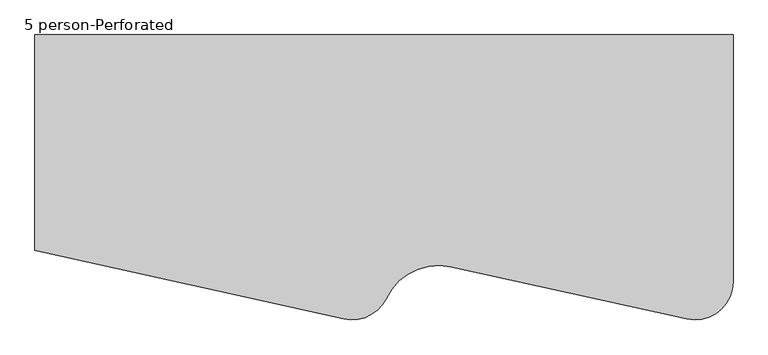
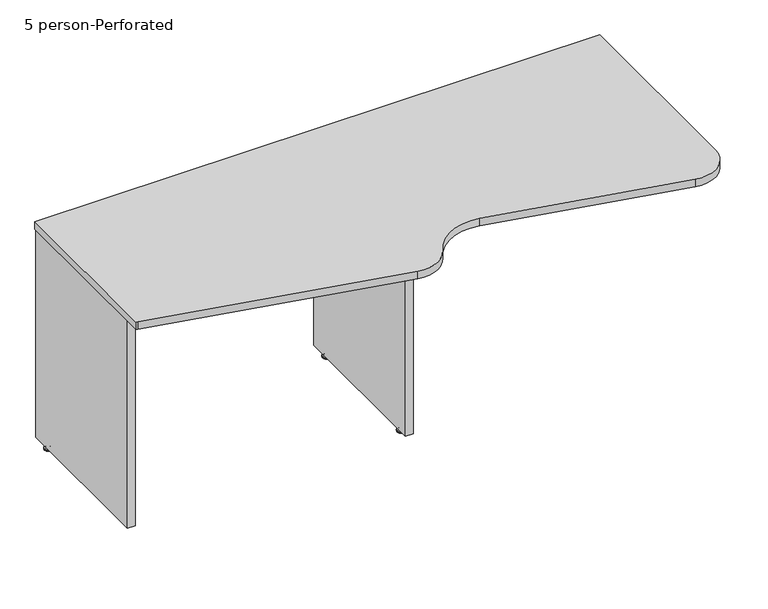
"""IFC4 building model written with IfcOpenShell, lengths in millimetres: furniture geometry, Nova Solutions - Collaboration Table - Keystone_4-5 person : 5 person-Perforated."""

import ifcopenshell
import ifcopenshell.guid

model = None  # the IFC model being written
_history = None  # IfcOwnerHistory: only IFC2X3 demands one
_inside = {}  # id of a spatial element -> (the spatial element, [elements in it])
_under = {}  # id of a project, library or spatial element -> (it, [spatial elements below it])
_declared = {}  # id of a project -> (the project, [libraries it declares])
_typed = {}  # id of a type object -> (the type object, [elements of that type])
_made_of = {}  # id of a material, layer set ... -> (it, [elements and type objects made of it])


def new_model(schema):
    """Start an empty IFC model of exactly this schema.

    Asked for "IFC4X3", IfcOpenShell would pick the latest addendum, in which some entities
    have other attributes; the version numbers below select the first issue.
    IFC2X3 requires an IfcOwnerHistory on every rooted entity: one is made here for all.
    """
    global model, _history
    if schema == "IFC4X3":
        model = ifcopenshell.file(schema_version=(4, 3, 0, 0))
    else:
        model = ifcopenshell.file(schema=schema)
    _inside.clear()
    _under.clear()
    _declared.clear()
    _typed.clear()
    _made_of.clear()
    _history = None
    if model.schema == "IFC2X3":
        org = make("IfcOrganization", Name="unknown")
        user = make(
            "IfcPersonAndOrganization",
            ThePerson=make("IfcPerson", FamilyName="unknown"),
            TheOrganization=org,
        )
        app = make(
            "IfcApplication",
            ApplicationDeveloper=org,
            Version="unknown",
            ApplicationFullName="unknown",
            ApplicationIdentifier="unknown",
        )
        _history = make(
            "IfcOwnerHistory",
            OwningUser=user,
            OwningApplication=app,
            ChangeAction="ADDED",
            CreationDate=0,
        )
    return model


def make(cls, **values):
    """One entity of the class cls with the attributes given. An attribute that is None is left unset."""
    return model.create_entity(
        cls, **{name: value for name, value in values.items() if value is not None}
    )


def rooted(cls, **values):
    """An entity with a GlobalId (a new one), such as an element, a storey or a relation."""
    return make(cls, GlobalId=ifcopenshell.guid.new(), OwnerHistory=_history, **values)


def si_unit(unit_type, name, prefix=None):
    """IfcSIUnit, for example si_unit("LENGTHUNIT", "METRE", prefix="MILLI")."""
    return make("IfcSIUnit", UnitType=unit_type, Prefix=prefix, Name=name)


def assignment(units):
    """IfcUnitAssignment: the units of a project."""
    return None if units is None else make("IfcUnitAssignment", Units=units)


def point(xyz):
    """IfcCartesianPoint."""
    return None if xyz is None else make("IfcCartesianPoint", Coordinates=xyz)


def direction(xyz):
    """IfcDirection."""
    return None if xyz is None else make("IfcDirection", DirectionRatios=xyz)


def frame(location, z_axis=None, x_axis=None):
    """IfcAxis2Placement3D, a coordinate frame: its origin and axes. An axis left out is left unset."""
    return make(
        "IfcAxis2Placement3D",
        Location=point(location),
        Axis=direction(z_axis),
        RefDirection=direction(x_axis),
    )


def frame_2d(location, x_axis=None):
    """IfcAxis2Placement2D, a coordinate frame in the plane: its origin and x axis."""
    return make(
        "IfcAxis2Placement2D", Location=point(location), RefDirection=direction(x_axis)
    )


def origin():
    """The frame at (0, 0, 0) with its axes left unset."""
    return frame((0.0, 0.0, 0.0))


def place(relative_to, where):
    """IfcLocalPlacement: puts the frame where relative to a parent placement (None: the world)."""
    return make(
        "IfcLocalPlacement", PlacementRelTo=relative_to, RelativePlacement=where
    )


def context(
    kind, dimensions, precision=None, world=None, true_north=None, identifier=None
):
    """IfcGeometricRepresentationContext, for example the 3D "Model" context."""
    return make(
        "IfcGeometricRepresentationContext",
        ContextIdentifier=identifier,
        ContextType=kind,
        CoordinateSpaceDimension=dimensions,
        Precision=precision,
        WorldCoordinateSystem=world,
        TrueNorth=true_north,
    )


def project(units=None, contexts=None):
    """IfcProject with its units and contexts."""
    return rooted(
        "IfcProject",
        Name="project",
        RepresentationContexts=contexts,
        UnitsInContext=assignment(units),
    )


def spatial(cls, under=None, at=None, **own):
    """A site, building, storey or space (cls), placed at a placement, below another one or the project."""
    s = rooted(cls, ObjectPlacement=at, **own)
    if under is not None:
        _under.setdefault(under.id(), (under, []))[1].append(s)
    return s


def polyline(points):
    """IfcPolyline through the points."""
    return make("IfcPolyline", Points=[point(p) for p in points])


def circle_curve(where, radius):
    """IfcCircle in the frame where."""
    return make("IfcCircle", Position=where, Radius=radius)


def ellipse_curve(where, semi_axis1, semi_axis2):
    """IfcEllipse in the frame where."""
    return make(
        "IfcEllipse", Position=where, SemiAxis1=semi_axis1, SemiAxis2=semi_axis2
    )


def trimmed(basis, trim1, trim2, sense, master):
    """IfcTrimmedCurve: the piece of a basis curve between two trims."""
    return make(
        "IfcTrimmedCurve",
        BasisCurve=basis,
        Trim1=trim1,
        Trim2=trim2,
        SenseAgreement=sense,
        MasterRepresentation=master,
    )


def segment(curve, same_sense, transition):
    """IfcCompositeCurveSegment."""
    return make(
        "IfcCompositeCurveSegment",
        Transition=transition,
        SameSense=same_sense,
        ParentCurve=curve,
    )


def composite_curve(segments, self_intersect=None):
    """IfcCompositeCurve: segments joined end to end."""
    return make("IfcCompositeCurve", Segments=segments, SelfIntersect=self_intersect)


def outline(outer, holes=None, kind="AREA"):
    """IfcArbitraryClosedProfileDef: a profile drawn as a closed curve; with holes, ...WithVoids."""
    if holes is None:
        return make("IfcArbitraryClosedProfileDef", ProfileType=kind, OuterCurve=outer)
    return make(
        "IfcArbitraryProfileDefWithVoids",
        ProfileType=kind,
        OuterCurve=outer,
        InnerCurves=holes,
    )


def extrude(swept, where, along, depth):
    """IfcExtrudedAreaSolid: the profile swept, set in the frame where, extruded along a direction by depth."""
    return make(
        "IfcExtrudedAreaSolid",
        SweptArea=swept,
        Position=where,
        ExtrudedDirection=direction(along),
        Depth=depth,
    )


def shape(context_of_items, identifier, shape_type, items):
    """IfcShapeRepresentation: the items that make up one representation, for example the "Body"."""
    return make(
        "IfcShapeRepresentation",
        ContextOfItems=context_of_items,
        RepresentationIdentifier=identifier,
        RepresentationType=shape_type,
        Items=items,
    )


def source(mapping_origin, context_of_items, identifier, shape_type, items):
    """IfcRepresentationMap: a shape defined once, which mapped items show again and again."""
    return make(
        "IfcRepresentationMap",
        MappingOrigin=mapping_origin,
        MappedRepresentation=shape(context_of_items, identifier, shape_type, items),
    )


def transform(
    local_origin,
    x_axis=None,
    y_axis=None,
    z_axis=None,
    scale=None,
    scale2=None,
    scale3=None,
    uniform=True,
):
    """IfcCartesianTransformationOperator3D, or its non-uniform kind. x_axis, y_axis, z_axis: its Axis1, 2, 3."""
    if uniform:
        return make(
            "IfcCartesianTransformationOperator3D",
            Axis1=direction(x_axis),
            Axis2=direction(y_axis),
            LocalOrigin=point(local_origin),
            Scale=scale,
            Axis3=direction(z_axis),
        )
    return make(
        "IfcCartesianTransformationOperator3DnonUniform",
        Axis1=direction(x_axis),
        Axis2=direction(y_axis),
        LocalOrigin=point(local_origin),
        Scale=scale,
        Axis3=direction(z_axis),
        Scale2=scale2,
        Scale3=scale3,
    )


def mapped(mapping_source, mapping_target):
    """IfcMappedItem: shows the shape of a source again, moved by a transform."""
    return make(
        "IfcMappedItem", MappingSource=mapping_source, MappingTarget=mapping_target
    )


def made_of(thing, what):
    """Note that an element or type object is made of a material, layer set ...; save() writes the relation."""
    if what is not None:
        _made_of.setdefault(what.id(), (what, []))[1].append(thing)
    return thing


def element(
    cls,
    number,
    at=None,
    inside=None,
    cuts=None,
    type_object=None,
    material=None,
    context=None,
    identifier="Body",
    shape_type=None,
    held_by="IfcProductDefinitionShape",
    body=None,
    shapes=None,
    **own,
):
    """One element of the class cls, such as IfcWall. Its Tag is "e" and its number.

    at: its placement. inside: the storey or other place that contains it. cuts: it is an
    opening in that element (IfcRelVoidsElement). A single representation is given by context,
    identifier, shape_type and body (its items); several are given by shapes. held_by: the class
    of the entity that holds the representations. save() writes the other relations.
    """
    e = rooted(cls, Tag="e%d" % number, ObjectPlacement=at, **own)
    if body is not None:
        shapes = [shape(context, identifier, shape_type, body)]
    if shapes is not None:
        e.Representation = make(held_by, Representations=shapes)
    if inside is not None:
        _inside.setdefault(inside.id(), (inside, []))[1].append(e)
    if cuts is not None:
        rooted(
            "IfcRelVoidsElement", RelatingBuildingElement=cuts, RelatedOpeningElement=e
        )
    if type_object is not None:
        _typed.setdefault(type_object.id(), (type_object, []))[1].append(e)
    return made_of(e, material)


def aggregate(whole, parts):
    """IfcRelAggregates: a whole, such as a stair, and the parts it consists of."""
    return rooted("IfcRelAggregates", RelatingObject=whole, RelatedObjects=parts)


def save(model, path):
    """Write the relations noted so far, then the file.

    IfcRelAggregates (storeys below a building ...), IfcRelContainedInSpatialStructure (elements
    in a storey), IfcRelDefinesByType, IfcRelAssociatesMaterial and IfcRelDeclares: one each for
    every whole, place, type object, material and project.
    """
    for whole, parts in _under.values():
        aggregate(whole, parts)
    for where, things in _inside.values():
        rooted(
            "IfcRelContainedInSpatialStructure",
            RelatedElements=things,
            RelatingStructure=where,
        )
    for kind, things in _typed.values():
        rooted("IfcRelDefinesByType", RelatedObjects=things, RelatingType=kind)
    for what, things in _made_of.values():
        rooted("IfcRelAssociatesMaterial", RelatedObjects=things, RelatingMaterial=what)
    for by, libraries in _declared.values():
        rooted("IfcRelDeclares", RelatingContext=by, RelatedDefinitions=libraries)
    model.write(path)


def plane_surface(at):
    """IfcPlane: the flat surface through the origin of the frame at, square to its z axis."""
    return make("IfcPlane", Position=at)


def cylinder_surface(at, radius):
    """IfcCylindricalSurface: all points at the distance radius from the z axis of the frame at."""
    return make("IfcCylindricalSurface", Position=at, Radius=radius)


def revolved_surface(curve, axis_point, axis_direction):
    """IfcSurfaceOfRevolution: the curve turned about the line through axis_point along axis_direction."""
    return make(
        "IfcSurfaceOfRevolution",
        SweptCurve=make("IfcArbitraryOpenProfileDef", ProfileType="CURVE", Curve=curve),
        AxisPosition=make("IfcAxis1Placement", Location=point(axis_point), Axis=direction(axis_direction)),
    )


def advanced_brep(points, edges, surfaces, faces):
    """IfcAdvancedBrep: a solid bounded by faces that lie on surfaces and meet in shared edges.

    An edge is (start, end): straight between two places in points (the first is 0);
    or (start, end, curve); or (start, end, curve, False) where it runs against its curve.
    A face is (place in surfaces, loops), or (place, loops, False) where it looks against
    its surface's normal. A loop lists edges by number (the first is 1), with a minus sign
    where the edge is run from its end to its start. The first loop is the outer one.
    """
    corners = [point(p) for p in points]
    vertices = [make("IfcVertexPoint", VertexGeometry=c) for c in corners]
    made = []
    for start, end, *more in edges:
        made.append(
            make(
                "IfcEdgeCurve",
                EdgeStart=vertices[start],
                EdgeEnd=vertices[end],
                EdgeGeometry=more[0] if more else make("IfcPolyline", Points=[corners[start], corners[end]]),
                SameSense=more[1] if len(more) > 1 else True,
            )
        )
    hull = []
    for where, loops, *sense in faces:
        bounds = []
        for j, loop in enumerate(loops):
            ring = [make("IfcOrientedEdge", EdgeElement=made[abs(k) - 1], Orientation=k > 0) for k in loop]
            bounds.append(
                make(
                    "IfcFaceOuterBound" if j == 0 else "IfcFaceBound",
                    Bound=make("IfcEdgeLoop", EdgeList=ring),
                    Orientation=True,
                )
            )
        hull.append(make("IfcAdvancedFace", Bounds=bounds, FaceSurface=surfaces[where], SameSense=sense[0] if sense else True))
    return make("IfcAdvancedBrep", Outer=make("IfcClosedShell", CfsFaces=hull))


def furniture_5_person_perforated_9bd49d1d(model_context):
    return source(origin(), model_context, "Body", "SolidModel", [
        advanced_brep(
        [(-922.3776506, -50.3590625, 11.1125), (-915.7, -50.3590625, 11.1125), (-909.0223494, -50.3590625, 11.1125), (-922.3776506, -50.3590625, 9.525), (-909.0223494, -50.3590625, 9.525), (-927.5855135, -50.3590625, 4.7748687), (-903.8144865, -50.3590625, 4.7748687), (-928.4466506, -50.3590625, 3.989419), (-902.9533494, -50.3590625, 3.989419), (-928.4466506, -50.3590625, 3.175), (-902.9533494, -50.3590625, 3.175), (-927.5959119, -50.3590625, 0.0), (-903.8040881, -50.3590625, 0.0), (-915.7, -50.3590625, 0.0)],
        [
            (0, 1),
            (1, 2),
            (2, 0, circle_curve(frame((-915.7, -50.3590625, 11.1125), z_axis=(0.0, 0.0, 1.0), x_axis=(1.0, 0.0, 0.0)), 6.6776506)),
            (0, 2, circle_curve(frame((-915.7, -50.3590625, 11.1125), z_axis=(0.0, 0.0, 1.0), x_axis=(1.0, 0.0, 0.0)), 6.6776506)),
            (3, 0),
            (2, 4),
            (4, 3, circle_curve(frame((-915.7, -50.3590625, 9.525), z_axis=(0.0, 0.0, 1.0), x_axis=(1.0, 0.0, 0.0)), 6.6776506)),
            (3, 4, circle_curve(frame((-915.7, -50.3590625, 9.525), z_axis=(0.0, 0.0, 1.0), x_axis=(1.0, 0.0, 0.0)), 6.6776506)),
            (5, 3, circle_curve(frame((-928.6320627, -50.3590625, 11.1521822), z_axis=(0.0, -1.0, 0.0), x_axis=(1.0, 0.0, 0.0)), 6.462615)),
            (4, 6, circle_curve(frame((-902.7679373, -50.3590625, 11.1521822), z_axis=(0.0, -1.0, 0.0), x_axis=(-1.0, 0.0, 0.0)), 6.462615)),
            (6, 5, circle_curve(frame((-915.7, -50.3590625, 4.7748687), z_axis=(0.0, 0.0, 1.0), x_axis=(1.0, 0.0, 0.0)), 11.8855135)),
            (5, 6, circle_curve(frame((-915.7, -50.3590625, 4.7748687), z_axis=(0.0, 0.0, 1.0), x_axis=(1.0, 0.0, 0.0)), 11.8855135)),
            (7, 5, circle_curve(frame((-927.4124632, -50.3590625, 3.7203591), z_axis=(0.0, 1.0, 0.0), x_axis=(1.0, 0.0, 0.0)), 1.0686145)),
            (6, 8, circle_curve(frame((-903.9875368, -50.3590625, 3.7203591), z_axis=(0.0, 1.0, 0.0), x_axis=(-1.0, 0.0, 0.0)), 1.0686145)),
            (8, 7, circle_curve(frame((-915.7, -50.3590625, 3.989419), z_axis=(0.0, 0.0, 1.0), x_axis=(1.0, 0.0, 0.0)), 12.7466506)),
            (7, 8, circle_curve(frame((-915.7, -50.3590625, 3.989419), z_axis=(0.0, 0.0, 1.0), x_axis=(1.0, 0.0, 0.0)), 12.7466506)),
            (9, 7),
            (8, 10),
            (10, 9, circle_curve(frame((-915.7, -50.3590625, 3.175), z_axis=(0.0, 0.0, 1.0), x_axis=(1.0, 0.0, 0.0)), 12.7466506)),
            (9, 10, circle_curve(frame((-915.7, -50.3590625, 3.175), z_axis=(0.0, 0.0, 1.0), x_axis=(1.0, 0.0, 0.0)), 12.7466506)),
            (11, 9),
            (10, 12),
            (12, 11, circle_curve(frame((-915.7, -50.3590625, 0.0), z_axis=(0.0, 0.0, 1.0), x_axis=(1.0, 0.0, 0.0)), 11.8959119)),
            (11, 12, circle_curve(frame((-915.7, -50.3590625, 0.0), z_axis=(0.0, 0.0, 1.0), x_axis=(1.0, 0.0, 0.0)), 11.8959119)),
            (13, 11),
            (12, 13),
        ],
        [
            plane_surface(frame((-915.7, -50.3590625, 11.1125), z_axis=(0.0, 0.0, 1.0), x_axis=(1.0, 0.0, 0.0))),
            cylinder_surface(frame((-915.7, -50.3590625, 43.2095994), z_axis=(0.0, 0.0, -1.0), x_axis=(1.0, 0.0, 0.0)), 6.6776506),
            revolved_surface(trimmed(ellipse_curve(frame((-902.7679373, -50.3590625, 11.1521822), z_axis=(0.0, -1.0, 0.0), x_axis=(-1.0, 0.0, 0.0)), 6.462615, 6.462615), [point((-909.0223494, -50.3590625, 9.525))], [point((-903.8144865, -50.3590625, 4.7748687))], True, "CARTESIAN"), (-915.7, -50.3590625, 43.2095994), (0.0, 0.0, -1.0)),
            revolved_surface(trimmed(ellipse_curve(frame((-903.9875368, -50.3590625, 3.7203591), z_axis=(0.0, 1.0, 0.0), x_axis=(-1.0, 0.0, 0.0)), 1.0686145, 1.0686145), [point((-903.8144865, -50.3590625, 4.7748687))], [point((-902.9533494, -50.3590625, 3.989419))], True, "CARTESIAN"), (-915.7, -50.3590625, 43.2095994), (0.0, 0.0, -1.0)),
            cylinder_surface(frame((-915.7, -50.3590625, 43.2095994), z_axis=(0.0, 0.0, -1.0), x_axis=(1.0, 0.0, 0.0)), 12.7466506),
            revolved_surface(polyline([(-902.9533494, -50.3590625, 3.175), (-903.8040881, -50.3590625, 0.0)]), (-915.7, -50.3590625, 43.2095994), (0.0, 0.0, -1.0)),
            plane_surface(frame((-915.7, -50.3590625, 0.0), z_axis=(0.0, 0.0, -1.0), x_axis=(1.0, 0.0, 0.0))),
        ],
        [
            (0, [[1, 2, 3]]),
            (0, [[-2, -1, 4]]),
            (1, [[5, -3, 6, 7]]),
            (1, [[-6, -4, -5, 8]]),
            (2, [[9, -7, 10, 11]]),
            (2, [[-10, -8, -9, 12]]),
            (3, [[13, -11, 14, 15]]),
            (3, [[-14, -12, -13, 16]]),
            (4, [[17, -15, 18, 19]]),
            (4, [[-18, -16, -17, 20]]),
            (5, [[21, -19, 22, 23]]),
            (5, [[-22, -20, -21, 24]]),
            (6, [[25, -23, 26]]),
            (6, [[-26, -24, -25]]),
        ],
    ),
        extrude(outline(polyline([(-928.55, -1.345), (-902.85, -1.345), (-902.85, -523.345), (-928.55, -523.345), (-928.55, -1.345)])), frame((0.0, 0.0, 15.6), z_axis=(0.0, 0.0, 1.0), x_axis=(1.0, 0.0, 0.0)), (0.0, 0.0, 1.0), 720.7),
        advanced_brep(
        [(3.8776506, -474.3309375, 11.1125), (-9.4776506, -474.3309375, 11.1125), (-2.8, -474.3309375, 11.1125), (3.8776506, -474.3309375, 9.525), (-9.4776506, -474.3309375, 9.525), (9.0855135, -474.3309375, 4.7748687), (-14.6855135, -474.3309375, 4.7748687), (9.9466506, -474.3309375, 3.989419), (-15.5466506, -474.3309375, 3.989419), (9.9466506, -474.3309375, 3.175), (-15.5466506, -474.3309375, 3.175), (9.0959119, -474.3309375, 0.0), (-14.6959119, -474.3309375, 0.0), (-2.8, -474.3309375, 0.0)],
        [
            (0, 1, circle_curve(frame((-2.8, -474.3309375, 11.1125), z_axis=(0.0, 0.0, 1.0), x_axis=(-1.0, 0.0, 0.0)), 6.6776506)),
            (1, 2),
            (2, 0),
            (1, 0, circle_curve(frame((-2.8, -474.3309375, 11.1125), z_axis=(0.0, 0.0, 1.0), x_axis=(-1.0, 0.0, 0.0)), 6.6776506)),
            (3, 4, circle_curve(frame((-2.8, -474.3309375, 9.525), z_axis=(0.0, 0.0, 1.0), x_axis=(-1.0, 0.0, 0.0)), 6.6776506)),
            (4, 1),
            (0, 3),
            (4, 3, circle_curve(frame((-2.8, -474.3309375, 9.525), z_axis=(0.0, 0.0, 1.0), x_axis=(-1.0, 0.0, 0.0)), 6.6776506)),
            (5, 6, circle_curve(frame((-2.8, -474.3309375, 4.7748687), z_axis=(0.0, 0.0, 1.0), x_axis=(-1.0, 0.0, 0.0)), 11.8855135)),
            (6, 4, circle_curve(frame((-15.7320627, -474.3309375, 11.1521822), z_axis=(0.0, -1.0, 0.0), x_axis=(1.0, 0.0, 0.0)), 6.462615)),
            (3, 5, circle_curve(frame((10.1320627, -474.3309375, 11.1521822), z_axis=(0.0, -1.0, 0.0), x_axis=(-1.0, 0.0, 0.0)), 6.462615)),
            (6, 5, circle_curve(frame((-2.8, -474.3309375, 4.7748687), z_axis=(0.0, 0.0, 1.0), x_axis=(-1.0, 0.0, 0.0)), 11.8855135)),
            (7, 8, circle_curve(frame((-2.8, -474.3309375, 3.989419), z_axis=(0.0, 0.0, 1.0), x_axis=(-1.0, 0.0, 0.0)), 12.7466506)),
            (8, 6, circle_curve(frame((-14.5124632, -474.3309375, 3.7203591), z_axis=(0.0, 1.0, 0.0), x_axis=(1.0, 0.0, 0.0)), 1.0686145)),
            (5, 7, circle_curve(frame((8.9124632, -474.3309375, 3.7203591), z_axis=(0.0, 1.0, 0.0), x_axis=(-1.0, 0.0, 0.0)), 1.0686145)),
            (8, 7, circle_curve(frame((-2.8, -474.3309375, 3.989419), z_axis=(0.0, 0.0, 1.0), x_axis=(-1.0, 0.0, 0.0)), 12.7466506)),
            (9, 10, circle_curve(frame((-2.8, -474.3309375, 3.175), z_axis=(0.0, 0.0, 1.0), x_axis=(-1.0, 0.0, 0.0)), 12.7466506)),
            (10, 8),
            (7, 9),
            (10, 9, circle_curve(frame((-2.8, -474.3309375, 3.175), z_axis=(0.0, 0.0, 1.0), x_axis=(-1.0, 0.0, 0.0)), 12.7466506)),
            (11, 12, circle_curve(frame((-2.8, -474.3309375, 0.0), z_axis=(0.0, 0.0, 1.0), x_axis=(-1.0, 0.0, 0.0)), 11.8959119)),
            (12, 10),
            (9, 11),
            (12, 11, circle_curve(frame((-2.8, -474.3309375, 0.0), z_axis=(0.0, 0.0, 1.0), x_axis=(-1.0, 0.0, 0.0)), 11.8959119)),
            (13, 12),
            (11, 13),
        ],
        [
            plane_surface(frame((-2.8, -474.3309375, 11.1125), z_axis=(0.0, 0.0, 1.0), x_axis=(-1.0, 0.0, 0.0))),
            cylinder_surface(frame((-2.8, -474.3309375, 43.2095994), z_axis=(0.0, 0.0, -1.0), x_axis=(-1.0, 0.0, 0.0)), 6.6776506),
            revolved_surface(trimmed(ellipse_curve(frame((-15.7320627, -474.3309375, 11.1521822), z_axis=(0.0, 1.0, 0.0), x_axis=(1.0, 0.0, 0.0)), 6.462615, 6.462615), [point((-9.4776506, -474.3309375, 9.525))], [point((-14.6855135, -474.3309375, 4.7748687))], True, "CARTESIAN"), (-2.8, -474.3309375, 43.2095994), (0.0, 0.0, -1.0)),
            revolved_surface(trimmed(ellipse_curve(frame((-14.5124632, -474.3309375, 3.7203591), z_axis=(0.0, -1.0, 0.0), x_axis=(1.0, 0.0, 0.0)), 1.0686145, 1.0686145), [point((-14.6855135, -474.3309375, 4.7748687))], [point((-15.5466506, -474.3309375, 3.989419))], True, "CARTESIAN"), (-2.8, -474.3309375, 43.2095994), (0.0, 0.0, -1.0)),
            cylinder_surface(frame((-2.8, -474.3309375, 43.2095994), z_axis=(0.0, 0.0, -1.0), x_axis=(-1.0, 0.0, 0.0)), 12.7466506),
            revolved_surface(polyline([(-15.5466506, -474.3309375, 3.175), (-14.6959119, -474.3309375, 0.0)]), (-2.8, -474.3309375, 43.2095994), (0.0, 0.0, -1.0)),
            plane_surface(frame((-2.8, -474.3309375, 0.0), z_axis=(0.0, 0.0, -1.0), x_axis=(-1.0, 0.0, 0.0))),
        ],
        [
            (0, [[1, 2, 3]]),
            (0, [[4, -3, -2]]),
            (1, [[5, 6, -1, 7]]),
            (1, [[8, -7, -4, -6]]),
            (2, [[9, 10, -5, 11]]),
            (2, [[12, -11, -8, -10]]),
            (3, [[13, 14, -9, 15]]),
            (3, [[16, -15, -12, -14]]),
            (4, [[17, 18, -13, 19]]),
            (4, [[20, -19, -16, -18]]),
            (5, [[21, 22, -17, 23]]),
            (5, [[24, -23, -20, -22]]),
            (6, [[25, -21, 26]]),
            (6, [[-26, -24, -25]]),
        ],
    ),
        advanced_brep(
        [(3.8776506, -50.3590625, 11.1125), (-9.4776506, -50.3590625, 11.1125), (-2.8, -50.3590625, 11.1125), (3.8776506, -50.3590625, 9.525), (-9.4776506, -50.3590625, 9.525), (9.0855135, -50.3590625, 4.7748687), (-14.6855135, -50.3590625, 4.7748687), (9.9466506, -50.3590625, 3.989419), (-15.5466506, -50.3590625, 3.989419), (9.9466506, -50.3590625, 3.175), (-15.5466506, -50.3590625, 3.175), (9.0959119, -50.3590625, 0.0), (-14.6959119, -50.3590625, 0.0), (-2.8, -50.3590625, 0.0)],
        [
            (0, 1, circle_curve(frame((-2.8, -50.3590625, 11.1125), z_axis=(0.0, 0.0, 1.0), x_axis=(-1.0, 0.0, 0.0)), 6.6776506)),
            (1, 2),
            (2, 0),
            (1, 0, circle_curve(frame((-2.8, -50.3590625, 11.1125), z_axis=(0.0, 0.0, 1.0), x_axis=(-1.0, 0.0, 0.0)), 6.6776506)),
            (3, 4, circle_curve(frame((-2.8, -50.3590625, 9.525), z_axis=(0.0, 0.0, 1.0), x_axis=(-1.0, 0.0, 0.0)), 6.6776506)),
            (4, 1),
            (0, 3),
            (4, 3, circle_curve(frame((-2.8, -50.3590625, 9.525), z_axis=(0.0, 0.0, 1.0), x_axis=(-1.0, 0.0, 0.0)), 6.6776506)),
            (5, 6, circle_curve(frame((-2.8, -50.3590625, 4.7748687), z_axis=(0.0, 0.0, 1.0), x_axis=(-1.0, 0.0, 0.0)), 11.8855135)),
            (6, 4, circle_curve(frame((-15.7320627, -50.3590625, 11.1521822), z_axis=(0.0, -1.0, 0.0), x_axis=(1.0, 0.0, 0.0)), 6.462615)),
            (3, 5, circle_curve(frame((10.1320627, -50.3590625, 11.1521822), z_axis=(0.0, -1.0, 0.0), x_axis=(-1.0, 0.0, 0.0)), 6.462615)),
            (6, 5, circle_curve(frame((-2.8, -50.3590625, 4.7748687), z_axis=(0.0, 0.0, 1.0), x_axis=(-1.0, 0.0, 0.0)), 11.8855135)),
            (7, 8, circle_curve(frame((-2.8, -50.3590625, 3.989419), z_axis=(0.0, 0.0, 1.0), x_axis=(-1.0, 0.0, 0.0)), 12.7466506)),
            (8, 6, circle_curve(frame((-14.5124632, -50.3590625, 3.7203591), z_axis=(0.0, 1.0, 0.0), x_axis=(1.0, 0.0, 0.0)), 1.0686145)),
            (5, 7, circle_curve(frame((8.9124632, -50.3590625, 3.7203591), z_axis=(0.0, 1.0, 0.0), x_axis=(-1.0, 0.0, 0.0)), 1.0686145)),
            (8, 7, circle_curve(frame((-2.8, -50.3590625, 3.989419), z_axis=(0.0, 0.0, 1.0), x_axis=(-1.0, 0.0, 0.0)), 12.7466506)),
            (9, 10, circle_curve(frame((-2.8, -50.3590625, 3.175), z_axis=(0.0, 0.0, 1.0), x_axis=(-1.0, 0.0, 0.0)), 12.7466506)),
            (10, 8),
            (7, 9),
            (10, 9, circle_curve(frame((-2.8, -50.3590625, 3.175), z_axis=(0.0, 0.0, 1.0), x_axis=(-1.0, 0.0, 0.0)), 12.7466506)),
            (11, 12, circle_curve(frame((-2.8, -50.3590625, 0.0), z_axis=(0.0, 0.0, 1.0), x_axis=(-1.0, 0.0, 0.0)), 11.8959119)),
            (12, 10),
            (9, 11),
            (12, 11, circle_curve(frame((-2.8, -50.3590625, 0.0), z_axis=(0.0, 0.0, 1.0), x_axis=(-1.0, 0.0, 0.0)), 11.8959119)),
            (13, 12),
            (11, 13),
        ],
        [
            plane_surface(frame((-2.8, -50.3590625, 11.1125), z_axis=(0.0, 0.0, 1.0), x_axis=(-1.0, 0.0, 0.0))),
            cylinder_surface(frame((-2.8, -50.3590625, 43.2095994), z_axis=(0.0, 0.0, -1.0), x_axis=(-1.0, 0.0, 0.0)), 6.6776506),
            revolved_surface(trimmed(ellipse_curve(frame((-15.7320627, -50.3590625, 11.1521822), z_axis=(0.0, 1.0, 0.0), x_axis=(1.0, 0.0, 0.0)), 6.462615, 6.462615), [point((-9.4776506, -50.3590625, 9.525))], [point((-14.6855135, -50.3590625, 4.7748687))], True, "CARTESIAN"), (-2.8, -50.3590625, 43.2095994), (0.0, 0.0, -1.0)),
            revolved_surface(trimmed(ellipse_curve(frame((-14.5124632, -50.3590625, 3.7203591), z_axis=(0.0, -1.0, 0.0), x_axis=(1.0, 0.0, 0.0)), 1.0686145, 1.0686145), [point((-14.6855135, -50.3590625, 4.7748687))], [point((-15.5466506, -50.3590625, 3.989419))], True, "CARTESIAN"), (-2.8, -50.3590625, 43.2095994), (0.0, 0.0, -1.0)),
            cylinder_surface(frame((-2.8, -50.3590625, 43.2095994), z_axis=(0.0, 0.0, -1.0), x_axis=(-1.0, 0.0, 0.0)), 12.7466506),
            revolved_surface(polyline([(-15.5466506, -50.3590625, 3.175), (-14.6959119, -50.3590625, 0.0)]), (-2.8, -50.3590625, 43.2095994), (0.0, 0.0, -1.0)),
            plane_surface(frame((-2.8, -50.3590625, 0.0), z_axis=(0.0, 0.0, -1.0), x_axis=(-1.0, 0.0, 0.0))),
        ],
        [
            (0, [[1, 2, 3]]),
            (0, [[4, -3, -2]]),
            (1, [[5, 6, -1, 7]]),
            (1, [[8, -7, -4, -6]]),
            (2, [[9, 10, -5, 11]]),
            (2, [[12, -11, -8, -10]]),
            (3, [[13, 14, -9, 15]]),
            (3, [[16, -15, -12, -14]]),
            (4, [[17, 18, -13, 19]]),
            (4, [[20, -19, -16, -18]]),
            (5, [[21, 22, -17, 23]]),
            (5, [[24, -23, -20, -22]]),
            (6, [[25, -21, 26]]),
            (6, [[-26, -24, -25]]),
        ],
    ),
        extrude(outline(polyline([(10.05, -1.345), (10.05, -523.345), (-15.65, -523.345), (-15.65, -1.345), (10.05, -1.345)])), frame((0.0, 0.0, 15.6), z_axis=(0.0, 0.0, 1.0), x_axis=(1.0, 0.0, 0.0)), (0.0, 0.0, 1.0), 720.7),
        extrude(outline(composite_curve([segment(polyline([(924.25, 0.0), (924.25, -656.5229386)]), True, "CONTINUOUS"), segment(trimmed(circle_curve(frame_2d((822.75, -656.5229386)), 101.5), [point((924.25, -656.5229386))], [point((800.7813792, -755.6169834))], False, "CARTESIAN"), True, "CONTINUOUS"), segment(polyline([(800.7813792, -755.6169834), (174.2784283, -616.724623)]), True, "CONTINUOUS"), segment(trimmed(circle_curve(frame_2d((141.2930311, -765.5121345)), 152.4), [point((174.2784283, -616.724623))], [point((2.6149334, -702.3128843))], True, "CARTESIAN"), True, "CONTINUOUS"), segment(trimmed(circle_curve(frame_2d((-87.9867994, -656.5572725)), 101.5), [point((2.6149334, -702.3128843))], [point((-110.0827884, -755.6229945))], False, "CARTESIAN"), True, "CONTINUOUS"), segment(polyline([(-110.0827884, -755.6229945), (-923.5758236, -574.1784667)]), True, "CONTINUOUS"), segment(trimmed(circle_curve(frame_2d((-904.6251452, -474.4632633)), 101.5), [point((-923.5758236, -574.1784667))], [point((-929.988, -572.7433508))], False, "CARTESIAN"), True, "CONTINUOUS"), segment(polyline([(-929.988, -572.7433508), (-929.988, 0.0), (924.25, 0.0)]), True, "CONTINUOUS")], self_intersect=False)), frame((0.0, 0.0, 736.3), z_axis=(0.0, 0.0, 1.0), x_axis=(1.0, 0.0, 0.0)), (0.0, 0.0, 1.0), 25.7),
    ])


if __name__ == "__main__":
    model = new_model("IFC4")
    model_context = context("Model", 3, world=origin())
    ifc_project = project(units=[si_unit("LENGTHUNIT", "METRE", prefix="MILLI")], contexts=[model_context])
    site = spatial("IfcSite", under=ifc_project)
    building = spatial("IfcBuilding", under=site)
    placement = place(None, origin())
    furniture_5_person_perforated_shape = furniture_5_person_perforated_9bd49d1d(model_context)
    element("IfcFurniture", 1, ObjectType="Nova Solutions - Collaboration Table - Keystone_4-5 person : 5 person-Perforated", at=placement, inside=building, context=model_context, shape_type="MappedRepresentation", body=[
        mapped(furniture_5_person_perforated_shape, transform((0.0, 0.0, 0.0), x_axis=(1.0, 0.0, 0.0), y_axis=(0.0, 1.0, 0.0), z_axis=(0.0, 0.0, 1.0))),
    ])
    save(model, "model.ifc")
